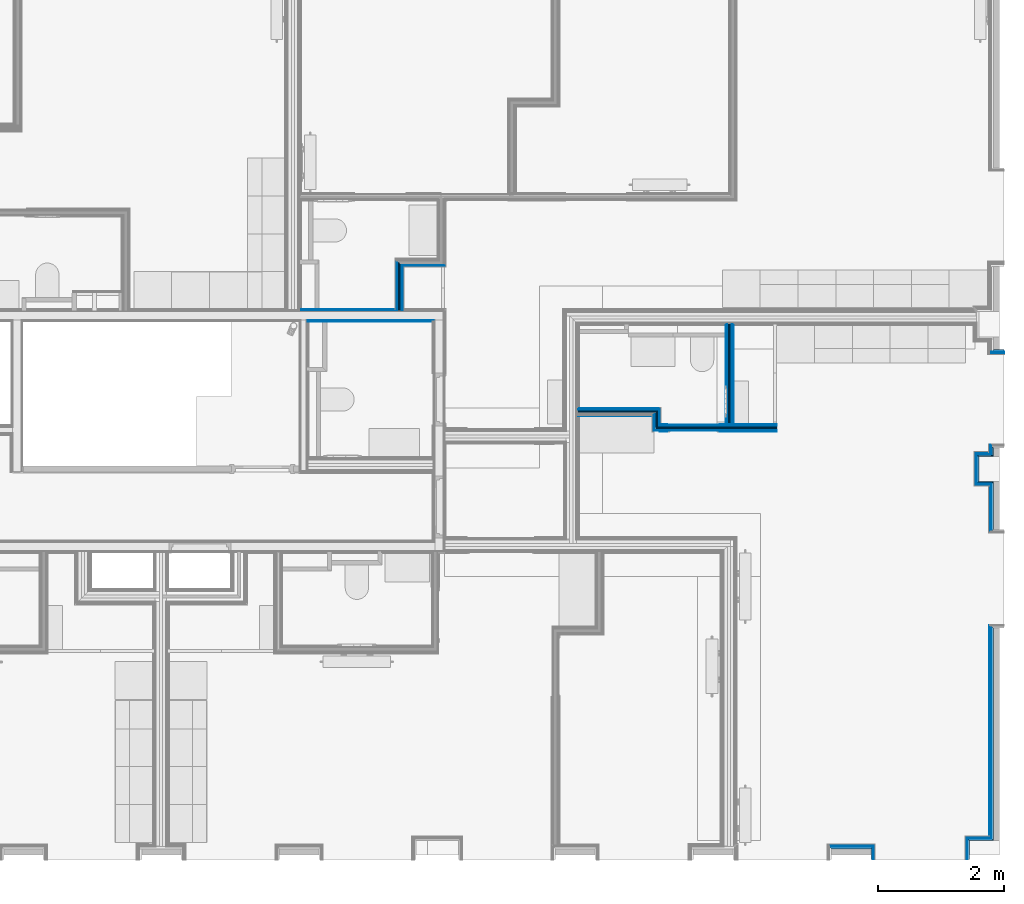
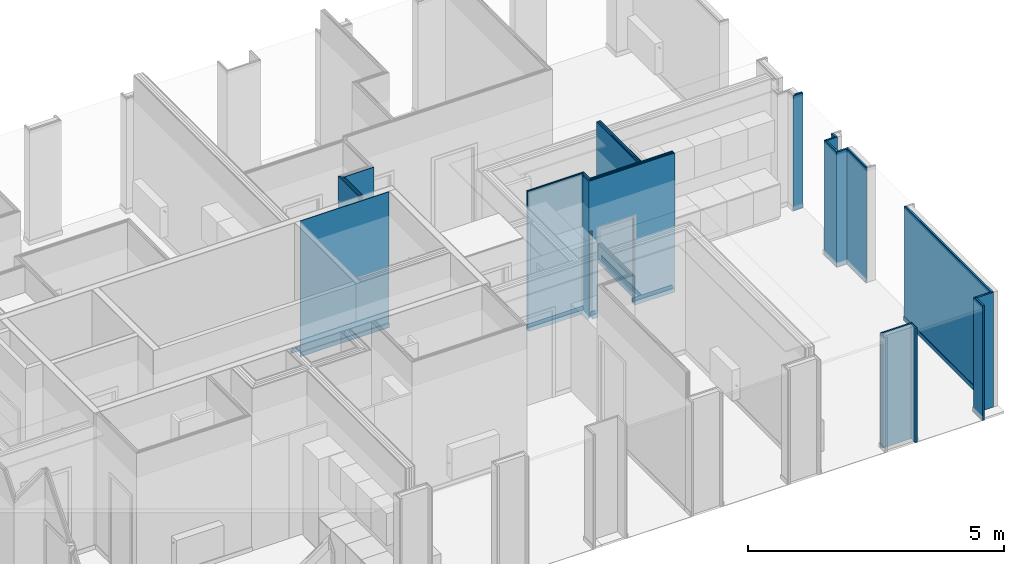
# One storey, part 21 of 64: 59 building element parts, 2 openings, 18 elements without a shape of their own.
"""IFC2X3 building model written with IfcOpenShell, lengths in metres."""

from ifc_helpers import new_model, entity, si_unit, converted_unit, derived_unit, money_unit, direction, frame, frame_2d, origin_with_axes, place, context, subcontext, project, spatial, polyline, rectangle, outline, extrude, material, type_object, element, aggregate, save


model = new_model("IFC2X3")

# Units and contexts
model_context = context("Model", 3, precision=1e-05, world=origin_with_axes(), true_north=direction((0.0, 1.0)))
body_context = subcontext(model_context, "Body", "Model", "MODEL_VIEW", scale=1.0)
ifc_project = project(units=[si_unit("LENGTHUNIT", "METRE"), si_unit("AREAUNIT", "SQUARE_METRE"), si_unit("VOLUMEUNIT", "CUBIC_METRE"), si_unit("ABSORBEDDOSEUNIT", "GRAY"), si_unit("AMOUNTOFSUBSTANCEUNIT", "MOLE"), si_unit("DOSEEQUIVALENTUNIT", "SIEVERT"), si_unit("ELECTRICCAPACITANCEUNIT", "FARAD"), si_unit("ELECTRICCHARGEUNIT", "COULOMB"), si_unit("ELECTRICCONDUCTANCEUNIT", "SIEMENS"), si_unit("ELECTRICCURRENTUNIT", "AMPERE"), si_unit("ELECTRICRESISTANCEUNIT", "OHM"), si_unit("ELECTRICVOLTAGEUNIT", "VOLT"), si_unit("ENERGYUNIT", "JOULE"), si_unit("FORCEUNIT", "NEWTON"), si_unit("FREQUENCYUNIT", "HERTZ"), si_unit("ILLUMINANCEUNIT", "LUX"), si_unit("INDUCTANCEUNIT", "HENRY"), si_unit("LUMINOUSFLUXUNIT", "LUMEN"), si_unit("LUMINOUSINTENSITYUNIT", "CANDELA"), si_unit("MAGNETICFLUXDENSITYUNIT", "TESLA"), si_unit("MAGNETICFLUXUNIT", "WEBER"), si_unit("MASSUNIT", "GRAM"), converted_unit("PLANEANGLEUNIT", "degree", entity("IfcReal", 0.0174532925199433), si_unit("PLANEANGLEUNIT", "RADIAN"), dimensions=[0, 0, 0, 0, 0, 0, 0]), si_unit("POWERUNIT", "WATT"), si_unit("PRESSUREUNIT", "PASCAL"), si_unit("RADIOACTIVITYUNIT", "BECQUEREL"), si_unit("SOLIDANGLEUNIT", "STERADIAN"), si_unit("THERMODYNAMICTEMPERATUREUNIT", "KELVIN"), si_unit("TIMEUNIT", "SECOND"), derived_unit("ACCELERATIONUNIT", [(si_unit("LENGTHUNIT", "METRE"), 1), (si_unit("TIMEUNIT", "SECOND"), -2)]), derived_unit("ANGULARVELOCITYUNIT", [(converted_unit("PLANEANGLEUNIT", "degree", entity("IfcReal", 0.0174532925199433), si_unit("PLANEANGLEUNIT", "RADIAN"), dimensions=[0, 0, 0, 0, 0, 0, 0]), 1), (si_unit("TIMEUNIT", "SECOND"), -1)]), derived_unit("CURVATUREUNIT", [(converted_unit("PLANEANGLEUNIT", "degree", entity("IfcReal", 0.0174532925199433), si_unit("PLANEANGLEUNIT", "RADIAN"), dimensions=[0, 0, 0, 0, 0, 0, 0]), 1), (si_unit("LENGTHUNIT", "METRE"), -1)]), derived_unit("DYNAMICVISCOSITYUNIT", [(si_unit("PRESSUREUNIT", "PASCAL"), 1), (si_unit("TIMEUNIT", "SECOND"), 1)]), derived_unit("HEATFLUXDENSITYUNIT", [(si_unit("POWERUNIT", "WATT"), 1), (si_unit("LENGTHUNIT", "METRE"), -2)]), derived_unit("HEATINGVALUEUNIT", [(si_unit("ENERGYUNIT", "JOULE"), 1), (si_unit("MASSUNIT", "GRAM"), -1)]), derived_unit("INTEGERCOUNTRATEUNIT", [(si_unit("TIMEUNIT", "SECOND"), -1)]), derived_unit("IONCONCENTRATIONUNIT", [(si_unit("MASSUNIT", "GRAM"), 1), (si_unit("VOLUMEUNIT", "CUBIC_METRE"), -1)]), derived_unit("ISOTHERMALMOISTURECAPACITYUNIT", [(si_unit("VOLUMEUNIT", "CUBIC_METRE"), 1), (si_unit("MASSUNIT", "GRAM"), -1)]), derived_unit("KINEMATICVISCOSITYUNIT", [(si_unit("AREAUNIT", "SQUARE_METRE"), 1), (si_unit("TIMEUNIT", "SECOND"), -1)]), derived_unit("LINEARFORCEUNIT", [(si_unit("FORCEUNIT", "NEWTON"), 1), (si_unit("LENGTHUNIT", "METRE"), -1)]), derived_unit("LINEARMOMENTUNIT", [(si_unit("FORCEUNIT", "NEWTON"), 1), (si_unit("LENGTHUNIT", "METRE"), -1)]), derived_unit("LINEARSTIFFNESSUNIT", [(si_unit("FORCEUNIT", "NEWTON"), 1), (si_unit("LENGTHUNIT", "METRE"), -1)]), derived_unit("LINEARVELOCITYUNIT", [(si_unit("LENGTHUNIT", "METRE"), 1), (si_unit("TIMEUNIT", "SECOND"), -1)]), derived_unit("LUMINOUSINTENSITYDISTRIBUTIONUNIT", [(si_unit("LUMINOUSINTENSITYUNIT", "CANDELA"), 1), (si_unit("LUMINOUSFLUXUNIT", "LUMEN"), -1)]), derived_unit("MASSDENSITYUNIT", [(si_unit("MASSUNIT", "GRAM"), 1), (si_unit("VOLUMEUNIT", "CUBIC_METRE"), -1)]), derived_unit("MASSFLOWRATEUNIT", [(si_unit("MASSUNIT", "GRAM"), 1), (si_unit("TIMEUNIT", "SECOND"), -1)]), derived_unit("MASSPERLENGTHUNIT", [(si_unit("MASSUNIT", "GRAM"), 1), (si_unit("LENGTHUNIT", "METRE"), -1)]), derived_unit("MODULUSOFELASTICITYUNIT", [(si_unit("FORCEUNIT", "NEWTON"), 1), (si_unit("AREAUNIT", "SQUARE_METRE"), -1)]), derived_unit("MODULUSOFLINEARSUBGRADEREACTIONUNIT", [(si_unit("FORCEUNIT", "NEWTON"), 1), (si_unit("LENGTHUNIT", "METRE"), -2)]), derived_unit("MODULUSOFROTATIONALSUBGRADEREACTIONUNIT", [(si_unit("FORCEUNIT", "NEWTON"), 1), (si_unit("LENGTHUNIT", "METRE"), 1)]), derived_unit("MODULUSOFSUBGRADEREACTIONUNIT", [(si_unit("FORCEUNIT", "NEWTON"), 1), (si_unit("VOLUMEUNIT", "CUBIC_METRE"), -1)]), derived_unit("MOISTUREDIFFUSIVITYUNIT", [(si_unit("VOLUMEUNIT", "CUBIC_METRE"), 1), (si_unit("TIMEUNIT", "SECOND"), -1)]), derived_unit("MOLECULARWEIGHTUNIT", [(si_unit("MASSUNIT", "GRAM"), 1), (si_unit("AMOUNTOFSUBSTANCEUNIT", "MOLE"), -1)]), derived_unit("PLANARFORCEUNIT", [(si_unit("FORCEUNIT", "NEWTON"), 1), (si_unit("LENGTHUNIT", "METRE"), -2)]), derived_unit("ROTATIONALFREQUENCYUNIT", [(si_unit("TIMEUNIT", "SECOND"), -1)]), derived_unit("ROTATIONALMASSUNIT", [(si_unit("MASSUNIT", "GRAM"), 1), (si_unit("LENGTHUNIT", "METRE"), 2)]), derived_unit("ROTATIONALSTIFFNESSUNIT", [(si_unit("FORCEUNIT", "NEWTON"), 1), (si_unit("LENGTHUNIT", "METRE"), 1), (converted_unit("PLANEANGLEUNIT", "degree", entity("IfcReal", 0.0174532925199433), si_unit("PLANEANGLEUNIT", "RADIAN"), dimensions=[0, 0, 0, 0, 0, 0, 0]), -1)]), derived_unit("SECTIONAREAINTEGRALUNIT", [(si_unit("LENGTHUNIT", "METRE"), 5)]), derived_unit("SECTIONMODULUSUNIT", [(si_unit("LENGTHUNIT", "METRE"), 3)]), derived_unit("SHEARMODULUSUNIT", [(si_unit("FORCEUNIT", "NEWTON"), 1), (si_unit("AREAUNIT", "SQUARE_METRE"), -1)]), derived_unit("SOUNDPOWERUNIT", [(si_unit("ENERGYUNIT", "JOULE"), 1), (si_unit("TIMEUNIT", "SECOND"), -1)]), derived_unit("SPECIFICHEATCAPACITYUNIT", [(si_unit("FORCEUNIT", "NEWTON"), 1), (si_unit("MASSUNIT", "GRAM"), -1), (si_unit("THERMODYNAMICTEMPERATUREUNIT", "KELVIN"), -1)]), derived_unit("TEMPERATUREGRADIENTUNIT", [(si_unit("THERMODYNAMICTEMPERATUREUNIT", "KELVIN"), 1), (si_unit("LENGTHUNIT", "METRE"), -1)]), derived_unit("THERMALADMITTANCEUNIT", [(si_unit("POWERUNIT", "WATT"), 1), (si_unit("AREAUNIT", "SQUARE_METRE"), -1), (si_unit("THERMODYNAMICTEMPERATUREUNIT", "KELVIN"), -1)]), derived_unit("THERMALCONDUCTANCEUNIT", [(si_unit("POWERUNIT", "WATT"), 1), (si_unit("LENGTHUNIT", "METRE"), -1), (si_unit("THERMODYNAMICTEMPERATUREUNIT", "KELVIN"), -1)]), derived_unit("THERMALEXPANSIONCOEFFICIENTUNIT", [(si_unit("THERMODYNAMICTEMPERATUREUNIT", "KELVIN"), -1)]), derived_unit("THERMALRESISTANCEUNIT", [(si_unit("AREAUNIT", "SQUARE_METRE"), 1), (si_unit("POWERUNIT", "WATT"), -1)]), derived_unit("THERMALTRANSMITTANCEUNIT", [(si_unit("POWERUNIT", "WATT"), 1), (si_unit("AREAUNIT", "SQUARE_METRE"), -1), (si_unit("THERMODYNAMICTEMPERATUREUNIT", "KELVIN"), -1)]), derived_unit("TORQUEUNIT", [(si_unit("FORCEUNIT", "NEWTON"), 1), (si_unit("LENGTHUNIT", "METRE"), 1)]), derived_unit("VAPORPERMEABILITYUNIT", [(si_unit("MASSUNIT", "GRAM"), 1), (si_unit("TIMEUNIT", "SECOND"), -1)]), derived_unit("VOLUMETRICFLOWRATEUNIT", [(si_unit("VOLUMEUNIT", "CUBIC_METRE"), 1), (si_unit("TIMEUNIT", "SECOND"), -1)]), derived_unit("WARPINGCONSTANTUNIT", [(si_unit("LENGTHUNIT", "METRE"), 6)]), derived_unit("WARPINGMOMENTUNIT", [(si_unit("FORCEUNIT", "NEWTON"), 1), (si_unit("LENGTHUNIT", "METRE"), 2)]), money_unit("GBP")], contexts=[model_context])

# Site, building, storey
site_placement = place(None, origin_with_axes())
site = spatial("IfcSite", under=ifc_project, at=site_placement, Name="Site", CompositionType="ELEMENT")
building_placement = place(site_placement, origin_with_axes())
building = spatial("IfcBuilding", under=site, at=building_placement, Name="Building01", CompositionType="ELEMENT")
storey_placement = place(building_placement, frame((0.0, 0.0, 8.64), z_axis=(0.0, 0.0, 1.0), x_axis=(1.0, 0.0, 0.0)))
storey = spatial("IfcBuildingStorey", under=building, at=storey_placement, Name="2F", CompositionType="ELEMENT", Elevation=8.64)

# Wall, building element parts
wall_type_1 = type_object("IfcWallType", Name="SHE_A-Walls_Type06d_ExternalWallInsulation_48mm", PredefinedType="NOTDEFINED")
wall_1_placement = place(storey_placement, frame((24.143, 0.27, 0.0), z_axis=(0.0, 0.0, 1.0), x_axis=(1.0, 0.0, 0.0)))
wall_1 = element("IfcWall", 1, at=wall_1_placement, inside=storey, type_object=wall_type_1, Name="6D", ObjectType="SHE_A-Walls_Type06d_ExternalWallInsulation_48mm")
ifc_material_1 = material(Name="A_BSUK_Insulation")
placement_1 = place(wall_1_placement, origin_with_axes())
building_element_part_1 = element("IfcBuildingElementPart", 2, at=placement_1, material=ifc_material_1, Name="1", context=body_context, shape_type="SweptSolid", body=[
    extrude(outline(polyline([(0.66, 0.036), (-0.036, 0.036), (0.0, 0.0), (0.624, 0.0), (0.66, 0.036)])), origin_with_axes(), (0.0, 0.0, 1.0), 2.74),
])
ifc_material_2 = material(Name="A_BSUK_WallInternal_Finishes_Plasterboard")
building_element_part_2 = element("IfcBuildingElementPart", 3, at=placement_1, material=ifc_material_2, Name="2", context=body_context, shape_type="SweptSolid", body=[
    extrude(outline(polyline([(0.672, 0.048), (-0.048, 0.048), (-0.035, 0.035), (0.659, 0.035), (0.672, 0.048)])), origin_with_axes(), (0.0, 0.0, 1.0), 2.74),
])
aggregate(wall_1, [building_element_part_1, building_element_part_2])

wall_2_placement = place(storey_placement, frame((24.767, 0.27, 0.0), z_axis=(0.0, 0.0, 1.0), x_axis=(0.0, -1.0, 0.0)))
wall_2 = element("IfcWall", 4, at=wall_2_placement, inside=storey, type_object=wall_type_1, Name="6D", ObjectType="SHE_A-Walls_Type06d_ExternalWallInsulation_48mm")
placement_2 = place(wall_2_placement, origin_with_axes())
building_element_part_3 = element("IfcBuildingElementPart", 5, at=placement_2, material=ifc_material_1, Name="1", context=body_context, shape_type="SweptSolid", body=[
    extrude(outline(polyline([(-0.036, 0.036), (0.0, 0.0), (0.17, 0.0), (0.17, 0.036), (-0.036, 0.036)])), origin_with_axes(), (0.0, 0.0, 1.0), 2.74),
])
building_element_part_4 = element("IfcBuildingElementPart", 6, at=placement_2, material=ifc_material_2, Name="2", context=body_context, shape_type="SweptSolid", body=[
    extrude(outline(polyline([(-0.048, 0.048), (-0.035, 0.035), (0.17, 0.035), (0.17, 0.048), (-0.048, 0.048)])), origin_with_axes(), (0.0, 0.0, 1.0), 2.74),
])
aggregate(wall_2, [building_element_part_3, building_element_part_4])

wall_3_placement = place(storey_placement, frame((26.333, 0.1, 0.0), z_axis=(0.0, 0.0, 1.0), x_axis=(0.0, 1.0, 0.0)))
wall_3 = element("IfcWall", 7, at=wall_3_placement, inside=storey, type_object=wall_type_1, Name="6D", ObjectType="SHE_A-Walls_Type06d_ExternalWallInsulation_48mm")
placement_3 = place(wall_3_placement, origin_with_axes())
building_element_part_5 = element("IfcBuildingElementPart", 8, at=placement_3, material=ifc_material_1, Name="1", context=body_context, shape_type="SweptSolid", body=[
    extrude(outline(polyline([(0.336, 0.036), (0.0, 0.036), (0.0, 0.0), (0.3, 0.0), (0.336, 0.036)])), origin_with_axes(), (0.0, 0.0, 1.0), 2.74),
])
building_element_part_6 = element("IfcBuildingElementPart", 9, at=placement_3, material=ifc_material_2, Name="2", context=body_context, shape_type="SweptSolid", body=[
    extrude(outline(polyline([(0.348, 0.048), (0.0, 0.048), (0.0, 0.035), (0.335, 0.035), (0.348, 0.048)])), origin_with_axes(), (0.0, 0.0, 1.0), 2.74),
])
aggregate(wall_3, [building_element_part_5, building_element_part_6])

wall_4_placement = place(storey_placement, frame((26.333, 0.4, 0.0), z_axis=(0.0, 0.0, 1.0), x_axis=(1.0, 0.0, 0.0)))
wall_4 = element("IfcWall", 10, at=wall_4_placement, inside=storey, type_object=wall_type_1, Name="6D", ObjectType="SHE_A-Walls_Type06d_ExternalWallInsulation_48mm")
placement_4 = place(wall_4_placement, origin_with_axes())
building_element_part_7 = element("IfcBuildingElementPart", 11, at=placement_4, material=ifc_material_1, Name="1", context=body_context, shape_type="SweptSolid", body=[
    extrude(outline(polyline([(0.341, 0.036), (-0.036, 0.036), (0.0, 0.0), (0.377, 0.0), (0.341, 0.036)])), origin_with_axes(), (0.0, 0.0, 1.0), 2.74),
])
building_element_part_8 = element("IfcBuildingElementPart", 12, at=placement_4, material=ifc_material_2, Name="2", context=body_context, shape_type="SweptSolid", body=[
    extrude(outline(polyline([(0.329, 0.048), (-0.048, 0.048), (-0.035, 0.035), (0.342, 0.035), (0.329, 0.048)])), origin_with_axes(), (0.0, 0.0, 1.0), 2.74),
])
aggregate(wall_4, [building_element_part_7, building_element_part_8])

wall_5_placement = place(storey_placement, frame((26.71, 0.4, 0.0), z_axis=(0.0, 0.0, 1.0), x_axis=(0.0, 1.0, 0.0)))
wall_5 = element("IfcWall", 13, at=wall_5_placement, inside=storey, type_object=wall_type_1, Name="6D", ObjectType="SHE_A-Walls_Type06d_ExternalWallInsulation_48mm")
placement_5 = place(wall_5_placement, origin_with_axes())
building_element_part_9 = element("IfcBuildingElementPart", 14, at=placement_5, material=ifc_material_1, Name="1", context=body_context, shape_type="SweptSolid", body=[
    extrude(outline(polyline([(3.41018, 0.036), (0.036, 0.036), (0.0, 0.0), (3.37418, 0.0), (3.41018, 0.036)])), origin_with_axes(), (0.0, 0.0, 1.0), 2.74),
])
building_element_part_10 = element("IfcBuildingElementPart", 15, at=placement_5, material=ifc_material_2, Name="2", context=body_context, shape_type="SweptSolid", body=[
    extrude(outline(polyline([(3.42218, 0.048), (0.048, 0.048), (0.035, 0.035), (3.40918, 0.035), (3.42218, 0.048)])), origin_with_axes(), (0.0, 0.0, 1.0), 2.74),
])
ifc_material_3 = material(Name="A_BSUK_Walls_Timber")
building_element_part_11 = element("IfcBuildingElementPart", 16, at=placement_5, material=ifc_material_3, Name="3", context=body_context, shape_type="SweptSolid", body=[
    extrude(outline(polyline([(0.063, 0.063), (0.048, 0.048), (3.42218, 0.048), (3.42218, 0.063), (0.063, 0.063)])), frame((0.0, 0.0, 0.015), z_axis=(0.0, 0.0, 1.0), x_axis=(1.0, 0.0, 0.0)), (0.0, 0.0, 1.0), 0.1),
])
aggregate(wall_5, [building_element_part_9, building_element_part_10, building_element_part_11])

wall_6_placement = place(storey_placement, frame((26.71, 5.34018, 0.0), z_axis=(0.0, 0.0, 1.0), x_axis=(0.0, 1.0, 0.0)))
wall_6 = element("IfcWall", 17, at=wall_6_placement, inside=storey, type_object=wall_type_1, Name="6D", ObjectType="SHE_A-Walls_Type06d_ExternalWallInsulation_48mm")
placement_6 = place(wall_6_placement, origin_with_axes())
building_element_part_12 = element("IfcBuildingElementPart", 18, at=placement_6, material=ifc_material_1, Name="1", context=body_context, shape_type="SweptSolid", body=[
    extrude(outline(polyline([(0.72382, 0.036), (-0.036, 0.036), (0.0, 0.0), (0.75982, 0.0), (0.72382, 0.036)])), origin_with_axes(), (0.0, 0.0, 1.0), 2.74),
])
building_element_part_13 = element("IfcBuildingElementPart", 19, at=placement_6, material=ifc_material_2, Name="2", context=body_context, shape_type="SweptSolid", body=[
    extrude(outline(polyline([(0.71182, 0.048), (-0.048, 0.048), (-0.035, 0.035), (0.72482, 0.035), (0.71182, 0.048)])), origin_with_axes(), (0.0, 0.0, 1.0), 2.74),
])
aggregate(wall_6, [building_element_part_12, building_element_part_13])

wall_7_placement = place(storey_placement, frame((26.71, 6.1, 0.0), z_axis=(0.0, 0.0, 1.0), x_axis=(-1.0, 0.0, 0.0)))
wall_7 = element("IfcWall", 20, at=wall_7_placement, inside=storey, type_object=wall_type_1, Name="6D", ObjectType="SHE_A-Walls_Type06d_ExternalWallInsulation_48mm")
placement_7 = place(wall_7_placement, origin_with_axes())
building_element_part_14 = element("IfcBuildingElementPart", 21, at=placement_7, material=ifc_material_1, Name="1", context=body_context, shape_type="SweptSolid", body=[
    extrude(outline(polyline([(0.266, 0.036), (0.036, 0.036), (0.0, 0.0), (0.23, 0.0), (0.266, 0.036)])), origin_with_axes(), (0.0, 0.0, 1.0), 2.74),
])
building_element_part_15 = element("IfcBuildingElementPart", 22, at=placement_7, material=ifc_material_2, Name="2", context=body_context, shape_type="SweptSolid", body=[
    extrude(outline(polyline([(0.278, 0.048), (0.048, 0.048), (0.035, 0.035), (0.265, 0.035), (0.278, 0.048)])), origin_with_axes(), (0.0, 0.0, 1.0), 2.74),
])
aggregate(wall_7, [building_element_part_14, building_element_part_15])

wall_8_placement = place(storey_placement, frame((26.48, 6.1, 0.0), z_axis=(0.0, 0.0, 1.0), x_axis=(0.0, 1.0, 0.0)))
wall_8 = element("IfcWall", 23, at=wall_8_placement, inside=storey, type_object=wall_type_1, Name="6D", ObjectType="SHE_A-Walls_Type06d_ExternalWallInsulation_48mm")
placement_8 = place(wall_8_placement, origin_with_axes())
building_element_part_16 = element("IfcBuildingElementPart", 24, at=placement_8, material=ifc_material_1, Name="1", context=body_context, shape_type="SweptSolid", body=[
    extrude(outline(polyline([(0.436, 0.036), (-0.036, 0.036), (0.0, 0.0), (0.4, 0.0), (0.436, 0.036)])), origin_with_axes(), (0.0, 0.0, 1.0), 2.74),
])
building_element_part_17 = element("IfcBuildingElementPart", 25, at=placement_8, material=ifc_material_2, Name="2", context=body_context, shape_type="SweptSolid", body=[
    extrude(outline(polyline([(0.448, 0.048), (-0.048, 0.048), (-0.035, 0.035), (0.435, 0.035), (0.448, 0.048)])), origin_with_axes(), (0.0, 0.0, 1.0), 2.74),
])
aggregate(wall_8, [building_element_part_16, building_element_part_17])

wall_9_placement = place(storey_placement, frame((26.48, 6.5, 0.0), z_axis=(0.0, 0.0, 1.0), x_axis=(1.0, 0.0, 0.0)))
wall_9 = element("IfcWall", 26, at=wall_9_placement, inside=storey, type_object=wall_type_1, Name="6D", ObjectType="SHE_A-Walls_Type06d_ExternalWallInsulation_48mm")
placement_9 = place(wall_9_placement, origin_with_axes())
building_element_part_18 = element("IfcBuildingElementPart", 27, at=placement_9, material=ifc_material_1, Name="1", context=body_context, shape_type="SweptSolid", body=[
    extrude(outline(polyline([(0.194, 0.036), (-0.036, 0.036), (0.0, 0.0), (0.23, 0.0), (0.194, 0.036)])), origin_with_axes(), (0.0, 0.0, 1.0), 2.74),
])
building_element_part_19 = element("IfcBuildingElementPart", 28, at=placement_9, material=ifc_material_2, Name="2", context=body_context, shape_type="SweptSolid", body=[
    extrude(outline(polyline([(0.182, 0.048), (-0.048, 0.048), (-0.035, 0.035), (0.195, 0.035), (0.182, 0.048)])), origin_with_axes(), (0.0, 0.0, 1.0), 2.74),
])
aggregate(wall_9, [building_element_part_18, building_element_part_19])

wall_10_placement = place(storey_placement, frame((26.71, 6.5, 0.0), z_axis=(0.0, 0.0, 1.0), x_axis=(0.0, 1.0, 0.0)))
wall_10 = element("IfcWall", 29, at=wall_10_placement, inside=storey, type_object=wall_type_1, Name="6D", ObjectType="SHE_A-Walls_Type06d_ExternalWallInsulation_48mm")
placement_10 = place(wall_10_placement, origin_with_axes())
building_element_part_20 = element("IfcBuildingElementPart", 30, at=placement_10, material=ifc_material_1, Name="1", context=body_context, shape_type="SweptSolid", body=[
    extrude(outline(polyline([(0.170326, 0.036), (0.036, 0.036), (0.0, 0.0), (0.134326, 0.0), (0.170326, 0.036)])), origin_with_axes(), (0.0, 0.0, 1.0), 2.74),
])
building_element_part_21 = element("IfcBuildingElementPart", 31, at=placement_10, material=ifc_material_2, Name="2", context=body_context, shape_type="SweptSolid", body=[
    extrude(outline(polyline([(0.182326, 0.048), (0.048, 0.048), (0.035, 0.035), (0.169326, 0.035), (0.182326, 0.048)])), origin_with_axes(), (0.0, 0.0, 1.0), 2.74),
])
aggregate(wall_10, [building_element_part_20, building_element_part_21])

wall_type_2 = type_object("IfcWallType", Name="SHE_A-Walls_Type05a_Partition_95mm_tall", PredefinedType="NOTDEFINED")
wall_11_placement = place(storey_placement, frame((17.273132, 8.82, 0.0), z_axis=(0.0, 0.0, 1.0), x_axis=(0.0, 1.0, 0.0)))
wall_11 = element("IfcWall", 32, at=wall_11_placement, inside=storey, type_object=wall_type_2, Name="5A", ObjectType="SHE_A-Walls_Type05a_Partition_95mm_tall")
placement_11 = place(wall_11_placement, origin_with_axes())
building_element_part_22 = element("IfcBuildingElementPart", 33, at=placement_11, material=ifc_material_2, Name="2", context=body_context, shape_type="SweptSolid", body=[
    extrude(outline(polyline([(0.717, -0.048), (0.0, -0.048), (0.0, -0.06), (0.705, -0.06), (0.717, -0.048)])), origin_with_axes(), (0.0, 0.0, 1.0), 3.24),
])
ifc_material_4 = material(Name="Air Cavity")
building_element_part_23 = element("IfcBuildingElementPart", 34, at=placement_11, material=ifc_material_4, Name="3", context=body_context, shape_type="SweptSolid", body=[
    extrude(outline(polyline([(0.74, -0.025), (0.0, -0.025), (0.0, -0.048), (0.717, -0.048), (0.74, -0.025)])), origin_with_axes(), (0.0, 0.0, 1.0), 3.24),
])
building_element_part_24 = element("IfcBuildingElementPart", 35, at=placement_11, material=ifc_material_1, Name="4", context=body_context, shape_type="SweptSolid", body=[
    extrude(outline(polyline([(0.765, 0.0), (0.0, 0.0), (0.0, -0.025), (0.74, -0.025), (0.765, 0.0)])), origin_with_axes(), (0.0, 0.0, 1.0), 3.24),
])
building_element_part_25 = element("IfcBuildingElementPart", 36, at=placement_11, material=ifc_material_4, Name="5", context=body_context, shape_type="SweptSolid", body=[
    extrude(outline(polyline([(0.788, 0.023), (0.0, 0.023), (0.0, 0.0), (0.765, 0.0), (0.788, 0.023)])), origin_with_axes(), (0.0, 0.0, 1.0), 3.24),
])
building_element_part_26 = element("IfcBuildingElementPart", 37, at=placement_11, material=ifc_material_2, Name="6", context=body_context, shape_type="SweptSolid", body=[
    extrude(outline(polyline([(0.8, 0.035), (0.0, 0.035), (0.0, 0.023), (0.788, 0.023), (0.8, 0.035)])), origin_with_axes(), (0.0, 0.0, 1.0), 3.24),
])
aggregate(wall_11, [building_element_part_22, building_element_part_23, building_element_part_24, building_element_part_25, building_element_part_26])

# Wall, building element part
wall_12_placement = place(storey_placement, frame((17.273132, 9.585, 0.0), z_axis=(0.0, 0.0, 1.0), x_axis=(1.0, 0.0, 0.0)))
wall_12 = element("IfcWall", 38, at=wall_12_placement, inside=storey, type_object=wall_type_2, Name="5A", ObjectType="SHE_A-Walls_Type05a_Partition_95mm_tall")
building_element_part_27_placement = place(wall_12_placement, origin_with_axes())
building_element_part_27 = element("IfcBuildingElementPart", 39, at=building_element_part_27_placement, material=ifc_material_2, Name="2", context=body_context, shape_type="SweptSolid", body=[
    extrude(outline(polyline([(0.714868, -0.048), (0.048, -0.048), (0.06, -0.06), (0.726868, -0.06), (0.714868, -0.048)])), origin_with_axes(), (0.0, 0.0, 1.0), 3.24),
])
aggregate(wall_12, [building_element_part_27])

# Wall, building element parts
wall_type_3 = type_object("IfcWallType", Name="SHE_A-Walls_Type03a_BlockworkWall_170mm", PredefinedType="NOTDEFINED")
wall_13_placement = place(storey_placement, frame((17.985, 8.805, 0.0), z_axis=(0.0, 0.0, 1.0), x_axis=(-1.0, 0.0, 0.0)))
wall_13 = element("IfcWall", 40, at=wall_13_placement, inside=storey, type_object=wall_type_3, Name="4B", ObjectType="SHE_A-Walls_Type03a_BlockworkWall_170mm")
placement_12 = place(wall_13_placement, origin_with_axes())
building_element_part_28 = element("IfcBuildingElementPart", 41, at=placement_12, material=ifc_material_3, Name="6", context=body_context, shape_type="SweptSolid", body=[
    extrude(rectangle(XDim=1.515, YDim=0.015, at=frame_2d((1.504368, -0.0225), x_axis=(-1.0, 0.0))), frame((0.0, 0.0, 0.015), z_axis=(0.0, 0.0, 1.0), x_axis=(1.0, 0.0, 0.0)), (0.0, 0.0, 1.0), 0.1),
])
ifc_material_5 = material(Name="A_BSUK_WallInternal_Finishes_Plaster")
building_element_part_29 = element("IfcBuildingElementPart", 42, at=placement_12, material=ifc_material_5, Name="9", context=body_context, shape_type="SweptSolid", body=[
    extrude(rectangle(XDim=2.0, YDim=0.015, at=frame_2d((1.155, 0.1475), x_axis=(-1.0, 0.0))), origin_with_axes(), (0.0, 0.0, 1.0), 3.24),
])
building_element_part_30 = element("IfcBuildingElementPart", 43, at=placement_12, material=ifc_material_3, Name="12", context=body_context, shape_type="SweptSolid", body=[
    extrude(rectangle(XDim=2.0, YDim=0.015, at=frame_2d((1.155, 0.1625), x_axis=(-1.0, 0.0))), frame((0.0, 0.0, 0.015), z_axis=(0.0, 0.0, 1.0), x_axis=(1.0, 0.0, 0.0)), (0.0, 0.0, 1.0), 0.1),
])
aggregate(wall_13, [building_element_part_28, building_element_part_29, building_element_part_30])

wall_14_placement = place(storey_placement, frame((21.382661, 6.965, 0.0), z_axis=(0.0, 0.0, 1.0), x_axis=(0.0, 1.0, 0.0)))
wall_14 = element("IfcWall", 44, at=wall_14_placement, inside=storey, type_object=wall_type_2, Name="5A", ObjectType="SHE_A-Walls_Type05a_Partition_95mm_tall")
placement_13 = place(wall_14_placement, origin_with_axes())
building_element_part_31 = element("IfcBuildingElementPart", 45, at=placement_13, material=ifc_material_2, Name="2", context=body_context, shape_type="SweptSolid", body=[
    extrude(outline(polyline([(0.273, -0.023), (0.023, -0.023), (0.035, -0.035), (0.285, -0.035), (0.273, -0.023)])), origin_with_axes(), (0.0, 0.0, 1.0), 3.32),
])
building_element_part_32 = element("IfcBuildingElementPart", 46, at=placement_13, material=ifc_material_4, Name="3", context=body_context, shape_type="SweptSolid", body=[
    extrude(outline(polyline([(0.25, 0.0), (0.0, 0.0), (0.023, -0.023), (0.273, -0.023), (0.25, 0.0)])), origin_with_axes(), (0.0, 0.0, 1.0), 3.32),
])
building_element_part_33 = element("IfcBuildingElementPart", 47, at=placement_13, material=ifc_material_1, Name="4", context=body_context, shape_type="SweptSolid", body=[
    extrude(outline(polyline([(0.225, 0.025), (0.0, 0.025), (0.0, 0.0), (0.25, 0.0), (0.225, 0.025)])), origin_with_axes(), (0.0, 0.0, 1.0), 3.32),
])
building_element_part_34 = element("IfcBuildingElementPart", 48, at=placement_13, material=ifc_material_4, Name="5", context=body_context, shape_type="SweptSolid", body=[
    extrude(outline(polyline([(0.202, 0.048), (0.0, 0.048), (0.0, 0.025), (0.225, 0.025), (0.202, 0.048)])), origin_with_axes(), (0.0, 0.0, 1.0), 3.32),
])
building_element_part_35 = element("IfcBuildingElementPart", 49, at=placement_13, material=ifc_material_2, Name="6", context=body_context, shape_type="SweptSolid", body=[
    extrude(outline(polyline([(0.19, 0.06), (-0.06, 0.06), (-0.048, 0.048), (0.202, 0.048), (0.19, 0.06)])), origin_with_axes(), (0.0, 0.0, 1.0), 3.32),
])
aggregate(wall_14, [building_element_part_31, building_element_part_32, building_element_part_33, building_element_part_34, building_element_part_35])

wall_15_placement = place(storey_placement, frame((21.382661, 7.215, 0.0), z_axis=(0.0, 0.0, 1.0), x_axis=(-1.0, 0.0, 0.0)))
wall_15 = element("IfcWall", 50, at=wall_15_placement, inside=storey, type_object=wall_type_2, Name="5A", ObjectType="SHE_A-Walls_Type05a_Partition_95mm_tall")
placement_14 = place(wall_15_placement, origin_with_axes())
building_element_part_36 = element("IfcBuildingElementPart", 51, at=placement_14, material=ifc_material_3, Name="1", context=body_context, shape_type="SweptSolid", body=[
    extrude(outline(polyline([(1.245, -0.035), (-0.035, -0.035), (-0.05, -0.05), (1.245, -0.05), (1.245, -0.035)])), frame((0.0, 0.0, 0.015), z_axis=(0.0, 0.0, 1.0), x_axis=(1.0, 0.0, 0.0)), (0.0, 0.0, 1.0), 0.1),
])
building_element_part_37 = element("IfcBuildingElementPart", 52, at=placement_14, material=ifc_material_2, Name="2", context=body_context, shape_type="SweptSolid", body=[
    extrude(outline(polyline([(1.26, -0.023), (-0.023, -0.023), (-0.035, -0.035), (1.26, -0.035), (1.26, -0.023)])), origin_with_axes(), (0.0, 0.0, 1.0), 3.32),
])
building_element_part_38 = element("IfcBuildingElementPart", 53, at=placement_14, material=ifc_material_4, Name="3", context=body_context, shape_type="SweptSolid", body=[
    extrude(outline(polyline([(1.26, 0.0), (0.0, 0.0), (-0.023, -0.023), (1.26, -0.023), (1.26, 0.0)])), origin_with_axes(), (0.0, 0.0, 1.0), 3.32),
])
building_element_part_39 = element("IfcBuildingElementPart", 54, at=placement_14, material=ifc_material_1, Name="4", context=body_context, shape_type="SweptSolid", body=[
    extrude(outline(polyline([(1.26, 0.025), (0.025, 0.025), (0.0, 0.0), (1.26, 0.0), (1.26, 0.025)])), origin_with_axes(), (0.0, 0.0, 1.0), 3.32),
])
building_element_part_40 = element("IfcBuildingElementPart", 55, at=placement_14, material=ifc_material_3, Name="7", context=body_context, shape_type="SweptSolid", body=[
    extrude(outline(polyline([(1.26, 0.075), (0.075, 0.075), (0.06, 0.06), (1.26, 0.06), (1.26, 0.075)])), frame((0.0, 0.0, 0.015), z_axis=(0.0, 0.0, 1.0), x_axis=(1.0, 0.0, 0.0)), (0.0, 0.0, 1.0), 0.1),
])
aggregate(wall_15, [building_element_part_36, building_element_part_37, building_element_part_38, building_element_part_39, building_element_part_40])

# Wall, openings, building element parts
wall_16_placement = place(storey_placement, frame((21.357661, 6.94, 0.0), z_axis=(0.0, 0.0, 1.0), x_axis=(1.0, 0.0, 0.0)))
wall_16 = element("IfcWall", 56, at=wall_16_placement, inside=storey, type_object=wall_type_2, Name="5A", ObjectType="SHE_A-Walls_Type05a_Partition_95mm_tall")
opening_1_placement = place(wall_16_placement, frame((-0.773, -0.05, -0.015), z_axis=(0.0, 0.0, 1.0), x_axis=(1.0, 0.0, 0.0)))
element("IfcOpeningElement", 57, at=opening_1_placement, cuts=wall_16, Name="Opening", ObjectType="Opening", context=body_context, shape_type="SweptSolid", body=[
    extrude(rectangle(XDim=0.834, YDim=2.142, at=frame_2d((-0.417, 1.071), x_axis=(1.0, 0.0))), frame((0.0, 0.0, 0.0), z_axis=(0.0, 1.0, 0.0), x_axis=(-1.0, 0.0, 0.0)), (0.0, 0.0, 1.0), 0.125),
])
opening_2_placement = place(wall_16_placement, frame((0.177, -0.05, 0.0), z_axis=(0.0, 0.0, 1.0), x_axis=(1.0, 0.0, 0.0)))
element("IfcOpeningElement", 58, at=opening_2_placement, cuts=wall_16, Name="Opening", ObjectType="Opening", context=body_context, shape_type="SweptSolid", body=[
    extrude(rectangle(XDim=2.142, YDim=0.834, at=frame_2d((-0.417, 1.071), x_axis=(0.0, -1.0))), frame((0.0, 0.0, 0.0), z_axis=(0.0, 1.0, 0.0), x_axis=(-1.0, 0.0, 0.0)), (0.0, 0.0, 1.0), 0.125),
])
placement_15 = place(wall_16_placement, origin_with_axes())
building_element_part_41 = element("IfcBuildingElementPart", 59, at=placement_15, material=ifc_material_3, Name="1", context=body_context, shape_type="SweptSolid", body=[
    extrude(outline(polyline([(1.913868, -0.035), (-0.035, -0.035), (-0.05, -0.05), (1.913868, -0.05), (1.913868, -0.035)])), frame((0.0, 0.0, 0.015), z_axis=(0.0, 0.0, 1.0), x_axis=(1.0, 0.0, 0.0)), (0.0, 0.0, 1.0), 0.1),
])
building_element_part_42 = element("IfcBuildingElementPart", 60, at=placement_15, material=ifc_material_2, Name="2", context=body_context, shape_type="SweptSolid", body=[
    extrude(outline(polyline([(1.913868, -0.023), (-0.023, -0.023), (-0.035, -0.035), (1.913868, -0.035), (1.913868, -0.023)])), origin_with_axes(), (0.0, 0.0, 1.0), 3.32),
])
building_element_part_43 = element("IfcBuildingElementPart", 61, at=placement_15, material=ifc_material_4, Name="3", context=body_context, shape_type="SweptSolid", body=[
    extrude(outline(polyline([(1.913868, 0.0), (0.0, 0.0), (-0.023, -0.023), (1.913868, -0.023), (1.913868, 0.0)])), origin_with_axes(), (0.0, 0.0, 1.0), 3.32),
])
building_element_part_44 = element("IfcBuildingElementPart", 62, at=placement_15, material=ifc_material_1, Name="4", context=body_context, shape_type="SweptSolid", body=[
    extrude(rectangle(XDim=1.913868, YDim=0.025, at=frame_2d((0.956934, 0.0125), x_axis=(-1.0, 0.0))), origin_with_axes(), (0.0, 0.0, 1.0), 3.32),
])
building_element_part_45 = element("IfcBuildingElementPart", 63, at=placement_15, material=ifc_material_4, Name="5", context=body_context, shape_type="SweptSolid", body=[
    extrude(rectangle(XDim=1.913868, YDim=0.023, at=frame_2d((0.956934, 0.0365), x_axis=(-1.0, 0.0))), origin_with_axes(), (0.0, 0.0, 1.0), 3.32),
])
building_element_part_46 = element("IfcBuildingElementPart", 64, at=placement_15, material=ifc_material_2, Name="6", context=body_context, shape_type="SweptSolid", body=[
    extrude(outline(polyline([(1.131, 0.06), (0.06, 0.06), (0.048, 0.048), (1.131, 0.048), (1.131, 0.06)])), origin_with_axes(), (0.0, 0.0, 1.0), 3.32),
])
building_element_part_47 = element("IfcBuildingElementPart", 65, at=placement_15, material=ifc_material_2, Name="7", context=body_context, shape_type="SweptSolid", body=[
    extrude(outline(polyline([(1.913868, 0.06), (0.06, 0.06), (0.048, 0.048), (1.913868, 0.048), (1.913868, 0.06)])), origin_with_axes(), (0.0, 0.0, 1.0), 3.32),
])
building_element_part_48 = element("IfcBuildingElementPart", 66, at=placement_15, material=ifc_material_3, Name="8", context=body_context, shape_type="SweptSolid", body=[
    extrude(outline(polyline([(1.119, 0.075), (0.075, 0.075), (0.06, 0.06), (1.119, 0.06), (1.119, 0.075)])), frame((0.0, 0.0, 0.015), z_axis=(0.0, 0.0, 1.0), x_axis=(1.0, 0.0, 0.0)), (0.0, 0.0, 1.0), 0.1),
])
building_element_part_49 = element("IfcBuildingElementPart", 67, at=placement_15, material=ifc_material_3, Name="9", context=body_context, shape_type="SweptSolid", body=[
    extrude(outline(polyline([(1.913868, 0.075), (0.075, 0.075), (0.06, 0.06), (1.913868, 0.06), (1.913868, 0.075)])), frame((0.0, 0.0, 0.015), z_axis=(0.0, 0.0, 1.0), x_axis=(1.0, 0.0, 0.0)), (0.0, 0.0, 1.0), 0.1),
])
aggregate(wall_16, [building_element_part_41, building_element_part_42, building_element_part_43, building_element_part_44, building_element_part_45, building_element_part_46, building_element_part_47, building_element_part_48, building_element_part_49])

# Wall, building element parts
wall_17_placement = place(storey_placement, frame((22.536661, 6.965, 0.0), z_axis=(0.0, 0.0, 1.0), x_axis=(0.0, 1.0, 0.0)))
wall_17 = element("IfcWall", 68, at=wall_17_placement, inside=storey, type_object=wall_type_2, Name="5A", ObjectType="SHE_A-Walls_Type05a_Partition_95mm_tall")
placement_16 = place(wall_17_placement, origin_with_axes())
building_element_part_50 = element("IfcBuildingElementPart", 69, at=placement_16, material=ifc_material_3, Name="1", context=body_context, shape_type="SweptSolid", body=[
    extrude(rectangle(XDim=1.565, YDim=0.015, at=frame_2d((0.8325, -0.0425), x_axis=(-1.0, 0.0))), frame((0.0, 0.0, 0.015), z_axis=(0.0, 0.0, 1.0), x_axis=(1.0, 0.0, 0.0)), (0.0, 0.0, 1.0), 0.1),
])
building_element_part_51 = element("IfcBuildingElementPart", 70, at=placement_16, material=ifc_material_2, Name="2", context=body_context, shape_type="SweptSolid", body=[
    extrude(rectangle(XDim=1.595, YDim=0.012, at=frame_2d((0.8325, -0.029), x_axis=(-1.0, 0.0))), origin_with_axes(), (0.0, 0.0, 1.0), 3.32),
])
building_element_part_52 = element("IfcBuildingElementPart", 71, at=placement_16, material=ifc_material_4, Name="3", context=body_context, shape_type="SweptSolid", body=[
    extrude(rectangle(XDim=1.595, YDim=0.023, at=frame_2d((0.8325, -0.0115), x_axis=(-1.0, 0.0))), origin_with_axes(), (0.0, 0.0, 1.0), 3.32),
])
building_element_part_53 = element("IfcBuildingElementPart", 72, at=placement_16, material=ifc_material_1, Name="4", context=body_context, shape_type="SweptSolid", body=[
    extrude(rectangle(XDim=1.63, YDim=0.025, at=frame_2d((0.815, 0.0125), x_axis=(-1.0, 0.0))), origin_with_axes(), (0.0, 0.0, 1.0), 3.32),
])
building_element_part_54 = element("IfcBuildingElementPart", 73, at=placement_16, material=ifc_material_4, Name="5", context=body_context, shape_type="SweptSolid", body=[
    extrude(rectangle(XDim=1.63, YDim=0.023, at=frame_2d((0.815, 0.0365), x_axis=(-1.0, 0.0))), origin_with_axes(), (0.0, 0.0, 1.0), 3.32),
])
building_element_part_55 = element("IfcBuildingElementPart", 74, at=placement_16, material=ifc_material_2, Name="6", context=body_context, shape_type="SweptSolid", body=[
    extrude(rectangle(XDim=1.595, YDim=0.012, at=frame_2d((0.8325, 0.054), x_axis=(-1.0, 0.0))), origin_with_axes(), (0.0, 0.0, 1.0), 3.32),
])
building_element_part_56 = element("IfcBuildingElementPart", 75, at=placement_16, material=ifc_material_3, Name="7", context=body_context, shape_type="SweptSolid", body=[
    extrude(rectangle(XDim=1.565, YDim=0.015, at=frame_2d((0.8325, 0.0675), x_axis=(-1.0, 0.0))), frame((0.0, 0.0, 0.015), z_axis=(0.0, 0.0, 1.0), x_axis=(1.0, 0.0, 0.0)), (0.0, 0.0, 1.0), 0.1),
])
aggregate(wall_17, [building_element_part_50, building_element_part_51, building_element_part_52, building_element_part_53, building_element_part_54, building_element_part_55, building_element_part_56])

wall_type_4 = type_object("IfcWallType", Name="SHE_A-Walls_Type06f_ExternalWallInsulation_48+15mm", PredefinedType="NOTDEFINED")
wall_18_placement = place(storey_placement, frame((26.71, 8.200326, 0.0), z_axis=(0.0, 0.0, 1.0), x_axis=(1.0, 0.0, 0.0)))
wall_18 = element("IfcWall", 76, at=wall_18_placement, inside=storey, type_object=wall_type_4, Name="6F", ObjectType="SHE_A-Walls_Type06f_ExternalWallInsulation_48+15mm")
placement_17 = place(wall_18_placement, origin_with_axes())
building_element_part_57 = element("IfcBuildingElementPart", 77, at=placement_17, material=ifc_material_2, Name="2", context=body_context, shape_type="SweptSolid", body=[
    extrude(outline(polyline([(0.17, -0.048), (-0.048, -0.048), (-0.063, -0.063), (0.17, -0.063), (0.17, -0.048)])), origin_with_axes(), (0.0, 0.0, 1.0), 2.74),
])
building_element_part_58 = element("IfcBuildingElementPart", 78, at=placement_17, material=ifc_material_2, Name="3", context=body_context, shape_type="SweptSolid", body=[
    extrude(rectangle(XDim=0.206, YDim=0.012, at=frame_2d((0.067, -0.042), x_axis=(-1.0, 0.0))), origin_with_axes(), (0.0, 0.0, 1.0), 2.74),
])
building_element_part_59 = element("IfcBuildingElementPart", 79, at=placement_17, material=ifc_material_1, Name="4", context=body_context, shape_type="SweptSolid", body=[
    extrude(rectangle(XDim=0.17, YDim=0.036, at=frame_2d((0.085, -0.018), x_axis=(-1.0, 0.0))), origin_with_axes(), (0.0, 0.0, 1.0), 2.74),
])
aggregate(wall_18, [building_element_part_57, building_element_part_58, building_element_part_59])

save(model, "model.ifc")
